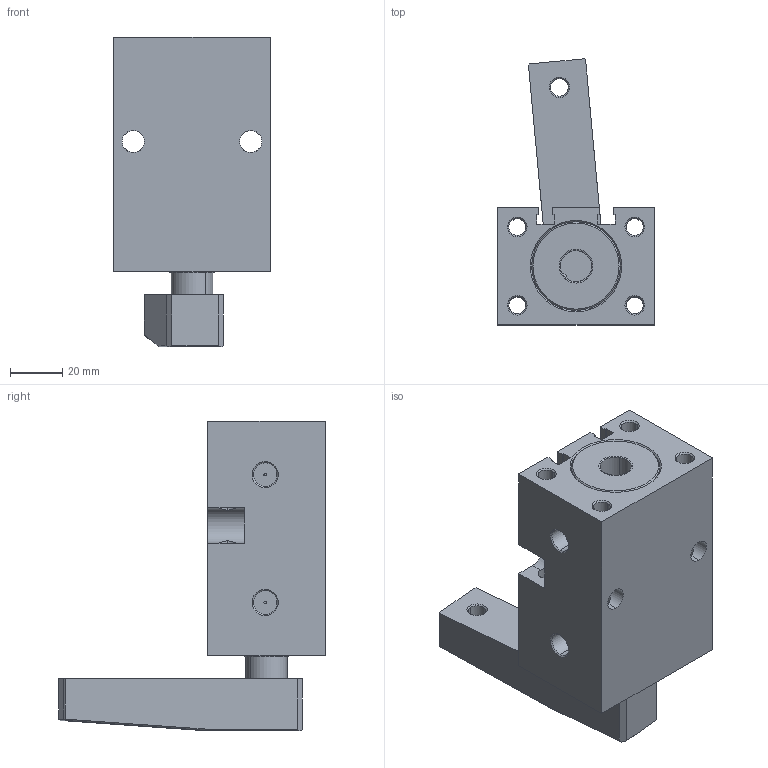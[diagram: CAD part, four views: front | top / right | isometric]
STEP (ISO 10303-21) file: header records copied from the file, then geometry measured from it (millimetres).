
FILE_DESCRIPTION (( 'STEP AP214' ), '1' );
FILE_NAME ('BGDK_32.STEP', '2018-12-10T08:24:33', ( '' ), ( '' ), 'SwSTEP 2.0', 'SolidWorks 2018', '' );
FILE_SCHEMA (( 'AUTOMOTIVE_DESIGN' ));
Length unit declared in the file: millimetre
Products named in the file (16): 16_K_MIL; BGDK_32_KE荅_YATAGI; m齥nat齭; socket head cap screw_am_B18.3.1M - 8 x 1.25 x 12 Hex SHCS -- 12NHX; socket set screw cup point_am_B18.3.6M - M3 x 0.5 x 5 Hex Socket Type I Cup Pt. SS --N; 32_BORU_GOVDE; BGDK_32_ARKA_KAPAK; KO-27X2_5; K52-16; Q16-15_PAP_YUZUK; K69-32X27X5_6 (K69-32-3); 32_bgdk_disli_ustpabuc; BGDK_32; P嵱; BÝLYA_3; K62-24X32X3_2
Assembly tree (16 placements, depth 2):
  BGDK_32
    32_BORU_GOVDE
    BGDK_32_ARKA_KAPAK
    Q16-15_PAP_YUZUK
    K52-16
    32_bgdk_disli_ustpabuc
    socket head cap screw_am_B18.3.1M - 8 x 1.25 x 12 Hex SHCS -- 12NHX
    16_K_MIL
    BGDK_32_KE荅_YATAGI
    K69-32X27X5_6 (K69-32-3)
    KO-27X2_5
    BÝLYA_3
    socket set screw cup point_am_B18.3.6M - M3 x 0.5 x 5 Hex Socket Type I Cup Pt. SS --N  x2
    P嵱
    K62-24X32X3_2
    m齥nat齭
Bounding box: 60 x 102.13 x 118.7 mm (x, y, z)
Volume: 225182.7 mm3; surface area: 79516.4 mm2
Topology: 16 solids, 16 shells, 652 faces, 1588 edges, 968 vertices
Faces by surface type: cylinder 299, plane 175, cone 132, bspline 32, torus 12, sphere 2
Entity records: 28384 total; most frequent: CARTESIAN_POINT 11563, DIRECTION 3254, ORIENTED_EDGE 3082, EDGE_CURVE 1541, AXIS2_PLACEMENT_3D 1326, VERTEX_POINT 944, EDGE_LOOP 705, CIRCLE 703
